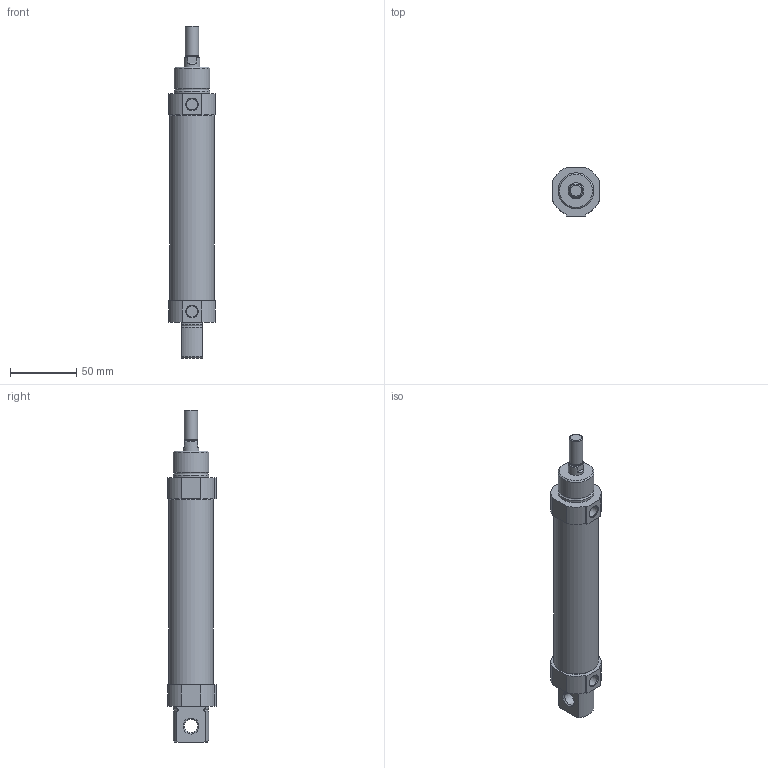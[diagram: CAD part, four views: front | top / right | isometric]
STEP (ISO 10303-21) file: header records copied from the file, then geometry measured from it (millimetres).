
FILE_DESCRIPTION((''),'2;1');
FILE_NAME('I:\3D電子目錄\氣缸\SDA\SDA32\SDA32\SDA32x100.stp','2007-08-06T10:36:03',('Administrator'),(''),'Autodesk Inventor 2008','Autodesk Inventor 2008','');
FILE_SCHEMA(('AUTOMOTIVE_DESIGN { 1 0 10303 214 1 1 1 1 }'));
Length unit declared in the file: millimetre
Products named in the file (1): SDA32X100
Bounding box: 35 x 36.5 x 250 mm (x, y, z)
Volume: 181591.4 mm3; surface area: 27096.1 mm2
Topology: 1 solids, 1 shells, 65 faces, 152 edges, 98 vertices
Faces by surface type: plane 27, cylinder 21, cone 12, torus 3, bspline 2
Full cylindrical faces by diameter (mm): 8.5 x2, 8.6 x1, 10 x2, 12 x1, 27 x2, 33.6 x1
Entity records: 1946 total; most frequent: CARTESIAN_POINT 486, DIRECTION 306, ORIENTED_EDGE 266, EDGE_CURVE 133, AXIS2_PLACEMENT_3D 121, VERTEX_POINT 97, EDGE_LOOP 94, FACE_OUTER_BOUND 65
